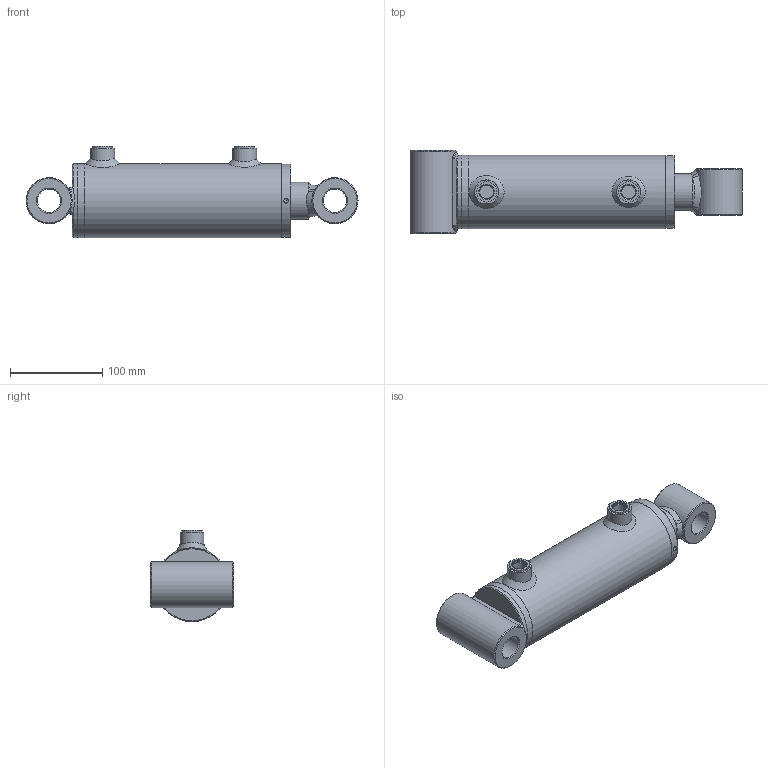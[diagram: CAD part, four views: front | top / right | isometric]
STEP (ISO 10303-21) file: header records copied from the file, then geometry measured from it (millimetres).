
FILE_DESCRIPTION( ( 'Unknown' ), '1' );
FILE_NAME( 'E:/LIBRERIA_3d/CILINDRI/HM2/HM24400100.stp', 'Unknown', ( 'Unknown' ), ( 'Unknown' ), 'PSStep 17.0.49', 'Unknown', ' ' );
FILE_SCHEMA( ( 'AUTOMOTIVE_DESIGN { 1 0 10303 214 1 1 1 1 }' ) );
Length unit declared in the file: millimetre
Products named in the file (26): STL4500100-oa6; Saldatura d'angolo 1-oa4; FTM4500100-oa5; CBSC220600; CT00070027; CG08007040; HM04400100; Saldatura con preparazione 1-oa2; Saldatura d'angolo 1-oa3; CF00070080; CBS0600000; CDB0002720; APG0600000; SBL4040100; Assem1; CB25050050; CB25050090; Saldatura d'angolo 1-oa0; Saldatura d'angolo 2-oa1
Assembly tree (18 placements, depth 4):
  Saldatura d'angolo 1-oa4
  Saldatura d'angolo 1-oa4
  Saldatura d'angolo 1-oa3
  Saldatura d'angolo 1-oa3
  Assem1
    CB25050050
    CB25050090
    HM04400100
      Saldatura con preparazione 1-oa2
      Saldatura con preparazione 1-oa2
      CF00070080
      CBS0600000
      CDB0002720
      APG0600000  x2
      SBL4040100
      CG08007040
        CG08007040
      CT00070027
        CT00070027
      STL4500100-oa6
        FTM4500100-oa5
        CBSC220600
Bounding box: 360 x 90 x 99 mm (x, y, z)
Volume: 1068171.2 mm3; surface area: 284665.3 mm2
Topology: 22 solids, 22 shells, 307 faces, 677 edges, 391 vertices
Faces by surface type: bspline 96, cylinder 69, plane 62, cone 43, torus 37
Full cylindrical faces by diameter (mm): 4.25 x1, 5 x2, 6 x2, 7 x2, 14.95 x2, 16 x2, 16.6 x2, 22 x2, 25.25 x2, 26 x2, 26.4 x1, 27 x5, 33.2 x1, 40 x4, 41 x1, 42 x1, 43 x1, 48.6 x1, 50 x4, 64.18 x2, 65 x1, 68.34 x2, 69.9 x1, 70 x1, 70.3 x1, 70.5 x1, 70.6 x1, 71 x1, 72 x3, 72.5 x1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
Entity records: 15516 total; most frequent: CARTESIAN_POINT 8052, ORIENTED_EDGE 872, DIRECTION 846, EDGE_LOOP 484, EDGE_CURVE 436, AXIS2_PLACEMENT_3D 411, FACE_OUTER_BOUND 399, VERTEX_POINT 337
